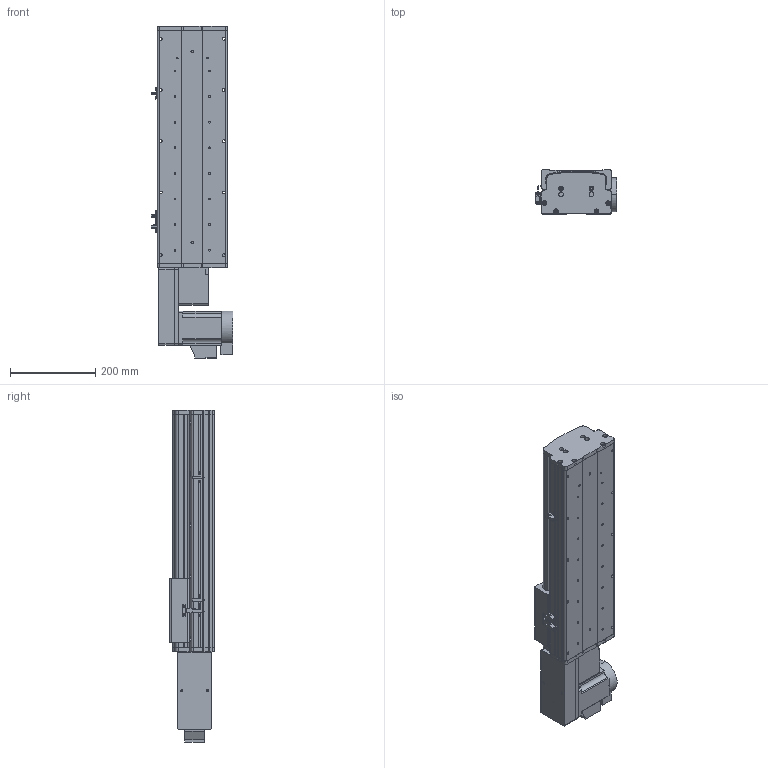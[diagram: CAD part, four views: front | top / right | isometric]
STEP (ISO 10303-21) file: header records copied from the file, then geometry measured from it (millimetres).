
FILE_DESCRIPTION (( 'STEP AP214' ), '1' );
FILE_NAME ('KSD165B-S300-MLB-CM.STEP', '2017-10-16T05:48:15', ( '微软用户' ), ( '微软中国' ), 'SwSTEP 2.0', 'SolidWorks 2014', '' );
FILE_SCHEMA (( 'AUTOMOTIVE_DESIGN' ));
Length unit declared in the file: millimetre
Products named in the file (18): 130宽模组马达安装板连板左右折同步带; 130宽模组保护罩上下左右折-同步带; U倰嫖萇假蚾璃; U倰嫖萇EEㄜSX672; 覜茼え68遵圉猾敕; KSD165模组-同步带-防撞垫2; KSD165模组同步带-防撞垫1; KSD165耀郪-ヶ傷啣1-肮祭湍; KSD165模组-后端板1-同步带; KSD165模组-同步带滑动座-最新版; KSD165B-S300-MLB-CM; 拸秶雄ん750W侜督萇儂; 165宽马达安装板同步带左-改; KSD165模组-同步带防尘盖1-300行程-最新版; KSD165模组同步带底板-300行程-最新; 肣翐M4X35樓6; HTPA26S5M250-A-H8 750W萇儂蚚; HTPA26S5M250-A-H8 400W萇儂蚚 
Assembly tree (22 placements, depth 2):
  KSD165B-S300-MLB-CM
    KSD165模组-同步带滑动座-最新版
    KSD165模组-后端板1-同步带
    KSD165耀郪-ヶ傷啣1-肮祭湍
    KSD165模组同步带-防撞垫1
    KSD165模组-同步带-防撞垫2
    覜茼え68遵圉猾敕
    U倰嫖萇EEㄜSX672  x3
    U倰嫖萇假蚾璃  x3
    130宽模组保护罩上下左右折-同步带
    130宽模组马达安装板连板左右折同步带
    HTPA26S5M250-A-H8 400W萇儂蚚 
    HTPA26S5M250-A-H8 750W萇儂蚚
    肣翐M4X35樓6  x2
    KSD165模组同步带底板-300行程-最新
    KSD165模组-同步带防尘盖1-300行程-最新版
    165宽马达安装板同步带左-改
    拸秶雄ん750W侜督萇儂
Bounding box: 191.2 x 104 x 778 mm (x, y, z)
Volume: 4761003.4 mm3; surface area: 1099788.3 mm2
Topology: 23 solids, 24 shells, 1901 faces, 5330 edges, 3474 vertices
Faces by surface type: cylinder 1189, plane 596, cone 116
Entity records: 60322 total; most frequent: CARTESIAN_POINT 12328, DIRECTION 9984, ORIENTED_EDGE 9248, EDGE_CURVE 4624, AXIS2_PLACEMENT_3D 3899, VERTEX_POINT 3045, CIRCLE 2208, LINE 2186
